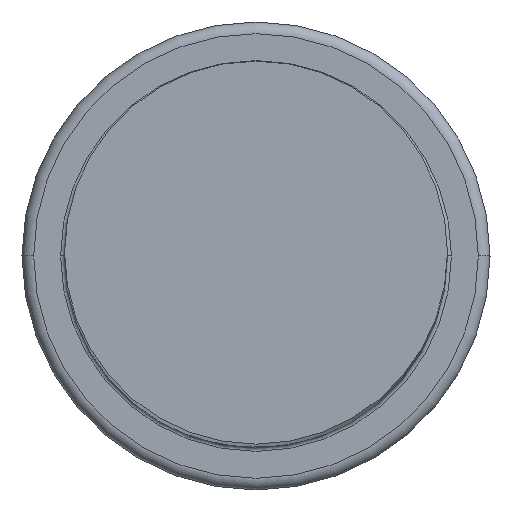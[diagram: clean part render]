
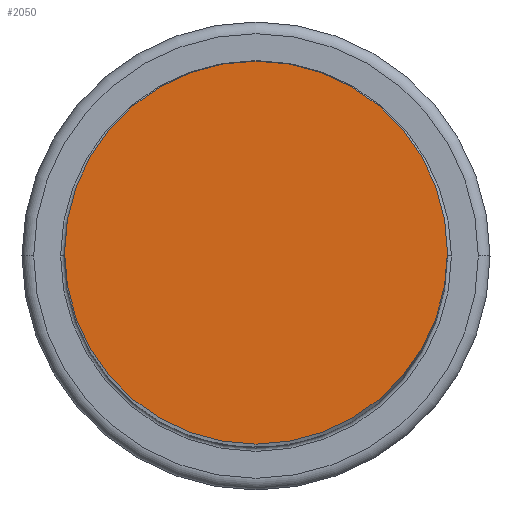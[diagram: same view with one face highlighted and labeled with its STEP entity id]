
A CAD part, top view. The second image highlights one B-rep face of the part: STEP entity #2050.
In plain terms, the highlighted planar face has unit normal (0, 0, 1).
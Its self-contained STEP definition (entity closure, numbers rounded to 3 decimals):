
#304=CARTESIAN_POINT('',(0.,0.,50.1));
#305=DIRECTION('',(0.,0.,1.));
#306=DIRECTION('',(1.,0.,0.));
#307=AXIS2_PLACEMENT_3D('',#304,#305,#306);
#309=CARTESIAN_POINT('',(0.,0.,50.1));
#310=DIRECTION('',(0.,0.,1.));
#311=DIRECTION('',(-1.,0.,0.));
#312=AXIS2_PLACEMENT_3D('',#309,#310,#311);
#1584=CARTESIAN_POINT('',(-4.91,0.,50.1));
#1585=VERTEX_POINT('',#1584);
#1586=CARTESIAN_POINT('',(4.91,0.,50.1));
#1587=VERTEX_POINT('',#1586);
#2041=CARTESIAN_POINT('',(0.,0.,50.1));
#2042=DIRECTION('',(0.,0.,1.));
#2043=DIRECTION('',(1.,0.,0.));
#2044=AXIS2_PLACEMENT_3D('',#2041,#2042,#2043);
#2045=PLANE('',#2044);
#2046=ORIENTED_EDGE('',*,*,#2007,.F.);
#2047=ORIENTED_EDGE('',*,*,#1937,.F.);
#2048=EDGE_LOOP('',(#2046,#2047));
#2049=FACE_OUTER_BOUND('',#2048,.F.);
#2050=ADVANCED_FACE('',(#2049),#2045,.T.);
#308=CIRCLE('',#307,4.91);
#313=CIRCLE('',#312,4.91);
#1937=EDGE_CURVE('',#1585,#1587,#313,.T.);
#2007=EDGE_CURVE('',#1587,#1585,#308,.T.);
